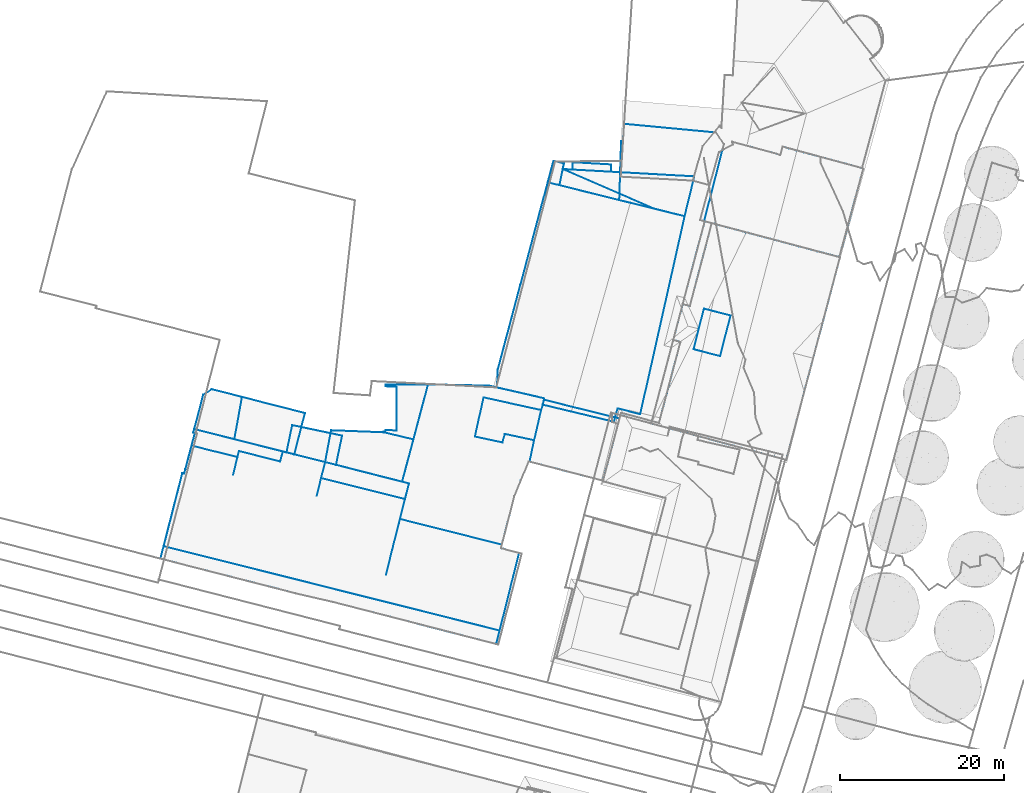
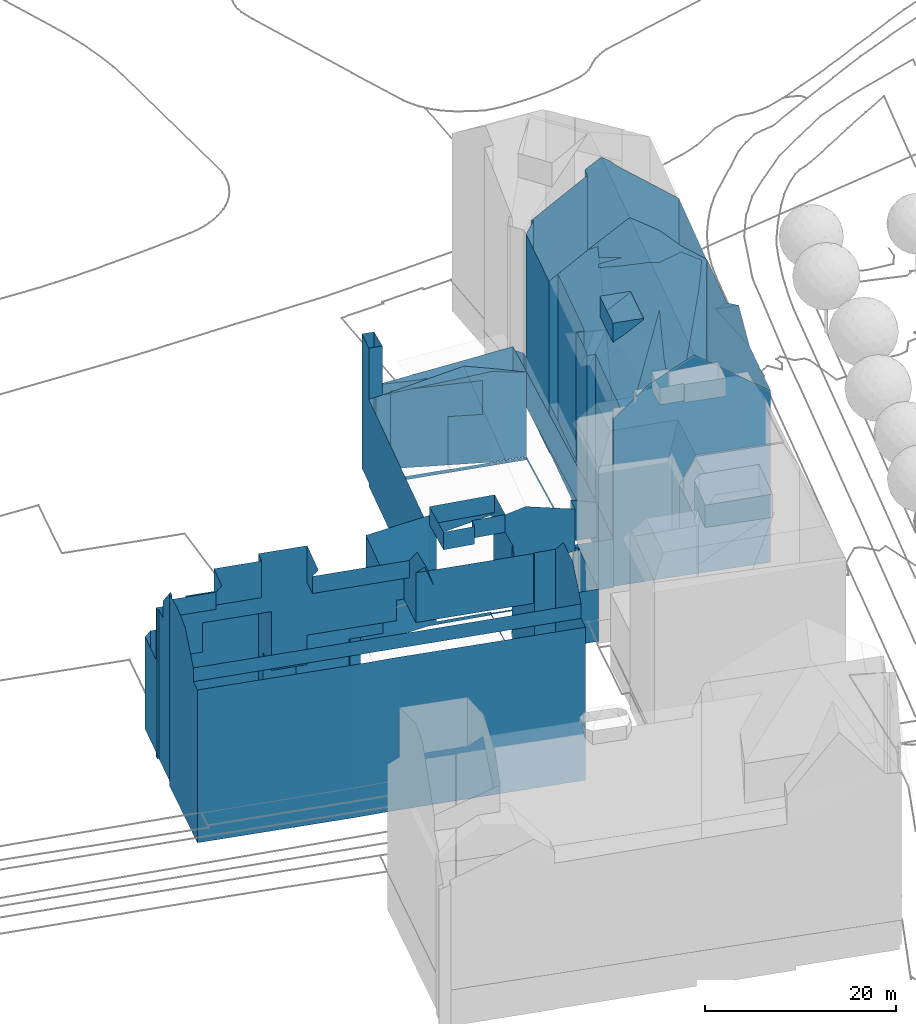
# Not in any storey, part 57 of 477: 4 walls.
"""IFC4 building model written with IfcOpenShell, lengths in metres."""

from ifc_helpers import new_model, si_unit, frame, origin_with_axes, place, context, subcontext, project, spatial, polygons, element, save


model = new_model("IFC4")

# Units and contexts
model_context = context("Model", 3, precision=1e-05, world=origin_with_axes())
body_context = subcontext(model_context, "Body", "Model", "MODEL_VIEW")
ifc_project = project(units=[si_unit("AREAUNIT", "SQUARE_METRE"), si_unit("LENGTHUNIT", "METRE")], contexts=[model_context])

# Sites, building
site_1_placement = place(None, origin_with_axes())
site_1 = spatial("IfcSite", under=ifc_project, at=site_1_placement, Name="Topoexport Site")
site_2_placement = place(site_1_placement, origin_with_axes())
site_2 = spatial("IfcSite", under=site_1, at=site_2_placement, Name="TPX_BUILDINGS")
building_1_placement = place(site_2_placement, frame((-8.9362679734, 426.3592160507, 536.4029), z_axis=(0.0, 0.0, 1.0), x_axis=(1.0, 0.0, 0.0)))
building_1 = spatial("IfcBuilding", under=site_2, at=building_1_placement, Name="Building 232", CompositionType="ELEMENT")

# Walls
wall_1_placement = place(None, frame((-8.9362679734, 426.3592160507, 536.4029), z_axis=(0.0, 0.0, 1.0), x_axis=(1.0, 0.0, 0.0)))
element("IfcWall", 1, at=wall_1_placement, inside=building_1, Name="Wall 0", context=body_context, shape_type="Tessellation", body=[
    polygons([(11.1169999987, -4.8271999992, 0.0), (0.0, 0.0, 10.828), (11.1169999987, -4.8271999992, 11.5769), (9.1480000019, -0.5097999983, 1.4529), (9.1480000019, -0.5097999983, 9.1871), (6.8610000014, -0.3827999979, 9.2101), (16.0089999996, -0.8905999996, 0.0), (16.0089999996, -0.8905999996, 10.664), (7.0980000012, -0.3954999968, 0.0), (1.1640000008, -0.0644999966, 9.8501), (5.8740000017, -0.3271999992, 9.8501), (7.0980000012, -0.3954999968, 10.755), (0.0, 0.0, 0.0), (5.8740000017, -0.3271999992, 0.058), (1.1640000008, -0.0644999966, 0.058), (6.8610000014, -0.3827999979, 1.4759), (1.2129999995, 0.8262000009, 0.058), (5.9189999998, 0.5547000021, 9.8501), (1.2129999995, 0.8262000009, 9.8501), (5.9189999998, 0.5547000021, 0.058), (14.8480000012, -5.75, 0.0), (14.8480000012, -5.75, 10.762)], [[[3, 2, 1]], [[6, 5, 4]], [[4, 8, 7]], [[4, 7, 9]], [[2, 11, 10]], [[11, 2, 12]], [[2, 10, 13]], [[12, 6, 11]], [[13, 15, 14]], [[13, 14, 9]], [[16, 14, 6]], [[6, 14, 11]], [[14, 16, 9]], [[5, 6, 12]], [[12, 8, 5]], [[9, 16, 4]], [[19, 18, 17]], [[10, 19, 15]], [[18, 11, 20]], [[8, 21, 7]], [[22, 1, 21]], [[2, 13, 1]], [[6, 4, 16]], [[5, 8, 4]], [[10, 15, 13]], [[18, 20, 17]], [[19, 17, 15]], [[11, 14, 20]], [[22, 21, 8]], [[3, 1, 22]]]),
])
wall_2_placement = place(None, frame((-8.9362679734, 426.3592160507, 536.4029), z_axis=(0.0, 0.0, 1.0), x_axis=(1.0, 0.0, 0.0)))
element("IfcWall", 2, at=wall_2_placement, inside=building_1, Name="Wall 1", context=body_context, shape_type="Tessellation", body=[
    polygons([(-7.9070000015, -24.3896999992, 5.0385), (-7.9070000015, -24.3896999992, 10.602), (-7.9719999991, -26.120099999, -0.446), (-7.9719999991, -26.120099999, 10.68), (-7.9070000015, -24.3896999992, -0.4459), (-8.0920000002, -26.5800999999, -0.446), (-8.0920000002, -26.5800999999, 10.681), (6.6689999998, -29.1386999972, -0.446), (6.4860000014, -29.8271999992, -0.033), (6.6689999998, -29.1386999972, -0.033), (6.375, -30.2431999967, -0.446), (6.4860000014, -29.8271999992, 6.1824), (6.6689999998, -29.1386999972, 11.4719), (6.6689999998, -29.1386999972, 6.1824), (6.375, -30.2431999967, 6.0464), (6.2320000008, -30.7802999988, 11.4719), (6.2320000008, -30.7802999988, 6.0464), (14.8480000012, -5.75, -0.4459), (9.4329999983, -29.8525999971, -0.033), (14.8480000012, -5.75, -0.033), (9.4329999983, -29.8525999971, -0.446), (7.3370000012, 3.3808000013, -0.033), (7.4710000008, 5.5029000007, 6.1824), (7.3370000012, 3.3808000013, 6.1824), (7.1140000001, 3.3945000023, -0.033), (7.1140000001, 3.3945000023, 6.1824), (10.8460000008, -30.6903999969, -0.033), (10.756000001, -30.9794999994, 6.1824), (10.8460000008, -30.6904999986, 6.1824), (17.2829999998, -6.3652999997, -0.033), (17.2829999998, -6.3652999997, 6.1824), (17.2170000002, -6.3476999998, -0.033), (17.2170000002, -6.3476999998, 6.1824), (18.7019999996, 4.4394000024, -0.033), (19.6229999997, 3.0371000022, 6.1824), (18.7019999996, 4.4394000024, 6.1824), (14.8480000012, -5.75, 6.1824), (9.4329999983, -29.8525999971, 10.602), (14.8480000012, -5.75, 10.762), (9.4329999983, -29.8525999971, 6.1824), (10.756000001, -30.9794999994, -0.033), (0.0, 0.0, 0.0), (6.9109999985, -3.0019999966, 6.1824), (0.0, 0.0, 10.828), (11.1169999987, -4.8271999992, 11.5769), (6.9100000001, -3.0019999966, 0.0), (11.1169999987, -4.8271999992, 6.1824), (-7.3500000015, -33.298899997, 13.2667), (-10.6900000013, -32.5820999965, 15.5335), (-7.3500000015, -33.298899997, 15.5335), (-7.0460000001, -32.248999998, 13.2667), (-7.0460000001, -32.248999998, 15.5335), (-3.4829999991, -33.0224999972, 13.2667), (-3.4829999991, -33.0224999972, 15.5325), (-2.6319999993, -29.3495999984, 13.2667), (-2.6319999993, -29.3495999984, 15.5325), (-2.6319999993, -29.3495999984, 6.0464), (-9.6409999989, -27.807599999, 13.2667), (-9.6409999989, -27.807599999, 15.5335), (-10.6900000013, -32.5820999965, 13.2667), (6.9120000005, -30.3769999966, -0.6259), (4.9090000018, -37.9482999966, 6.0463), (6.9120000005, -30.3769999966, 6.0464), (-2.2839999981, -28.0937999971, -0.6259), (-2.2839999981, -28.0937999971, -0.446), (-1.1319999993, 1.001000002, -0.039), (0.1389999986, 0.6758000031, 17.1484), (-1.1319999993, 1.0009000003, 17.1484), (0.1389999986, 0.6758000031, -0.039), (-0.3999999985, -1.9775999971, 17.1484), (-0.3999999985, -1.9775999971, -0.039), (-0.3999999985, -1.9775999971, 10.873), (-0.3999999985, -1.9775999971, 0.0), (-1.6019999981, -1.6816999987, 10.646), (-1.8319999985, -1.623999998, 10.602), (-1.8319999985, -1.6240999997, 17.1484), (-28.1959999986, -31.8056999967, -0.9959), (-21.8209999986, -32.0537, 5.4375), (-28.1959999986, -31.8056999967, 10.657), (-21.8209999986, -32.0537, 10.657), (-21.8209999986, -32.0537, -0.9959), (-21.8209999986, -32.0537, -0.8159), (-28.9299999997, -35.6806999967, 6.8843), (-28.2639999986, -32.1650999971, 6.8844), (-28.9299999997, -35.6806999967, 10.6569), (-28.2639999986, -32.1650999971, -0.9959), (-21.5639999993, -26.4482999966, -0.8159), (-21.568, -26.2665999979, 5.4375), (-21.5639999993, -26.4482999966, 5.4375), (-20.2390000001, -26.5126999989, -0.8159), (-20.2390000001, -26.5126999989, 5.4375), (-20.2479999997, -31.8329999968, -0.8159), (-20.2479999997, -31.8329999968, 5.4375), (-21.5839999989, -31.7675999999, -0.8159), (-21.5839999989, -31.7675999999, 5.4375), (-21.6000000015, -31.9745999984, -0.8159), (-21.6000000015, -31.9745999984, 5.4375), (-21.8220000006, -31.9648999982, -0.8159), (-21.8220000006, -31.9648999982, 5.4375), (-21.568, -26.2665999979, -0.8159), (-16.4010000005, -26.2206999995, 5.4375), (-18.1860000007, -32.9257999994, -0.8389), (-18.1860000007, -32.9257999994, -0.8159), (-18.1860000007, -32.9257999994, 10.657), (-8.9769999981, -26.3720999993, 13.2667), (-16.4010000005, -26.2206999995, 13.2667), (-8.9769999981, -26.3720999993, -0.8389), (-16.4010000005, -26.2206999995, -0.8159), (-16.4010000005, -26.2206999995, -0.8389), (-19.5560000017, -38.0751999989, 10.6569), (-19.5560000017, -38.0751999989, 13.2666), (-18.1860000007, -32.9257999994, 5.4375), (-18.1860000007, -32.9257999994, -0.9959), (-19.5560000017, -38.0751999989, -0.839), (-18.7329999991, -38.2841999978, -1.7229), (-27.6099999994, -36.0175999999, -1.167), (-28.9299999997, -35.6806999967, -1.7229), (-28.9299999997, -35.6806999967, -1.167), (-19.5560000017, -38.0751999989, -0.996), (-27.6099999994, -36.0175999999, -0.996), (-18.7329999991, -38.2841999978, -0.839), (-28.9299999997, -35.6806999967, 17.3113), (-18.7329999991, -38.2841999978, 17.3112), (-18.7329999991, -38.2841999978, 13.2666), (-27.9670000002, -52.7157999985, -1.7229), (-32.4349999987, -51.6806999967, 17.7962), (-27.9670000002, -52.7157999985, 17.7962), (-8.0989999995, -57.8310999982, -1.723), (-8.0989999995, -57.8310999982, 17.7962), (-45.9420999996, -36.5214999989, 4.3435), (-45.9400000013, -36.5146999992, 22.5798), (-45.9461000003, -36.5378999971, -1.7229), (-45.9400000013, -36.5146999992, -1.7229), (-46.3170000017, -37.0116999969, -1.7229), (-46.0850000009, -37.0702999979, -1.7229), (-46.3170000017, -37.0116999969, 10.4799), (-34.0909999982, -34.3827999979, 17.3114), (-39.9800000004, -32.8993999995, 14.4016), (-32.6909999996, -34.7343999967, 14.4016), (-34.0909999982, -34.3827999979, 22.0729), (-28.9299999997, -35.6806999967, 22.0728), (-32.6909999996, -34.7343999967, 6.8844), (-33.6359999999, -34.4970999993, -1.1669), (-32.9360000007, -31.1796999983, -1.1669), (-33.6359999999, -34.4970999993, -1.0859), (-29.4180000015, -37.628899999, 17.3113), (-19.2120000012, -40.1904999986, 19.508), (-29.4180000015, -37.628899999, 19.508), (-19.8209999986, -42.6132999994, -1.7229), (-7.4149999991, -45.7294999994, -0.839), (-19.8209999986, -42.6132999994, -0.839), (-19.8209999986, -42.6132999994, 13.2666), (-7.4149999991, -45.7294999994, 19.628), (-19.8209999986, -42.6132999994, 19.628), (-31.8289999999, -31.4130999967, 6.8844), (-31.8289999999, -31.4130999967, -1.0859), (-32.9360000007, -31.1796999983, -1.0859), (-26.8599999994, -32.4628999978, -1.1669), (-26.8599999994, -32.4628999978, -0.9959), (-3.4829999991, -33.0224999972, 6.0464), (-4.0320000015, -35.6318999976, 13.2666), (-3.4829999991, -33.0224999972, -0.8389), (-4.0320000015, -35.6318999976, -0.839), (-3.4829999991, -33.0224999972, -0.6259), (-2.6319999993, -29.3495999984, -0.8389), (-2.6319999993, -29.3495999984, -0.6259), (-2.4219999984, -28.6933999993, 13.2667), (-2.4219999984, -28.6933999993, 11.9039), (-2.4219999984, -28.6933999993, 6.0464), (-2.4219999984, -28.6933999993, -0.8389), (-2.4219999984, -28.6933999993, -0.6259), (-2.2430000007, -27.9169999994, 11.9039), (-2.2430000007, -27.9169999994, 13.2667), (-2.2430000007, -27.9169999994, -0.8389), (-2.2430000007, -27.9169999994, -0.446), (1.0269999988, -29.5243999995, 6.0464), (1.0269999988, -29.5243999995, 12.8528), (7.4710000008, 5.5029000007, -0.033), (19.6229999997, 3.0371000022, -0.033), (19.4349999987, 2.3027000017, 6.1824), (19.4349999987, 2.3027000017, -0.033), (6.9140000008, -2.8945999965, -0.033), (6.8850000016, -3.7802999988, -0.033), (6.8850000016, -3.7802999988, 0.0), (-6.6229999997, -19.5800999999, 10.602), (-6.6229999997, -19.5800999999, -0.4459), (-5.1600000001, -14.0937999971, -0.4459), (-5.1600000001, -14.0937999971, 10.602), (-1.8319999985, -1.623999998, -0.039), (-1.8319999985, -1.623999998, -0.4459), (8.2069999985, -4.1074999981, 11.3869), (8.2069999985, -4.1074999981, 12.8528), (11.1169999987, -4.8271999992, 11.9769), (-0.3999999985, -1.9775999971, -0.4459), (8.2069999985, -4.1074999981, -0.4459), (-7.4149999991, -45.7294999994, 13.2666), (-5.8900000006, -39.8037, -0.839), (-7.5289999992, -46.1728999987, 20.03), (-7.5289999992, -46.1728999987, -1.723), (-7.4149999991, -45.7294999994, -1.723), (-4.1490000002, -35.6015999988, -0.8389), (-5.1180000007, -37.9423999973, -0.839), (-4.1490000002, -35.6015999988, 13.2667), (-5.1180000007, -37.9423999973, 13.2666), (-5.8900000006, -39.8037, 13.2666), (-32.4349999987, -51.6806999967, -1.7229), (-48.9800000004, -47.4375, 17.7962), (-29.4180000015, -37.628899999, 21.9508), (-29.9629999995, -39.7978999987, 21.8138), (-45.1979999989, -33.6757999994, 19.5082), (-45.2219999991, -33.7685999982, 19.6072), (-45.1979999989, -33.6757999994, 17.3114), (-45.2219999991, -33.7685999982, -1.7228), (-45.1979999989, -33.6757999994, -1.7228), (-45.9470000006, -36.5439999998, 22.6118), (-46.0850000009, -37.0702999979, 22.6838), (-7.2829999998, -46.2353999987, -1.723), (-7.2829999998, -46.2353999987, 20.032), (-5.313000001, -46.7431999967, -1.723), (-5.313000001, -46.7431999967, 20.082), (-7.6860000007, -56.1904999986, 17.7962), (-22.3079999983, -52.5195999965, 19.568), (-7.6860000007, -56.1904999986, 19.628), (-48.5909999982, -45.9189999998, 17.7962), (-48.5909999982, -45.9189999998, 19.553), (-4.0320000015, -35.6318999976, -0.6261), (-4.0320000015, -35.6318999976, 6.0463), (-6.0280000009, -49.5898999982, 22.9057), (-6.9050000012, -53.0790999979, -1.723), (-6.9050000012, -53.0790999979, 22.9057), (-6.0280000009, -49.5898999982, -1.723), (-7.6860000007, -56.1904999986, -1.723), (-47.7969999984, -42.8085999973, 22.6118), (-48.9800000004, -47.4375, -1.7229), (-48.5909999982, -45.9189999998, -1.7229), (-47.7969999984, -42.8085999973, -1.7229), (-46.3170000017, -37.0116999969, 22.6838), (-47.0350000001, -39.8222999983, 23.0657), (-47.0350000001, -39.8222999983, -1.7229), (-19.2120000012, -40.1904999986, 17.3112), (-19.9459999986, -43.1103999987, 20.078), (-19.8209999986, -42.6132999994, 22.0828), (-20.6510000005, -45.9169999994, 22.9967), (-19.9459999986, -43.1103999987, 22.6117), (-20.6510000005, -45.9169999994, 22.6187), (-20.7760000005, -46.4169999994, 23.0657), (-20.7760000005, -46.4169999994, 22.6147), (-21.5269999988, -49.4052999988, 22.6157), (-43.7699999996, -27.4706999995, -1.1469), (-42.7340000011, -26.807599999, 10.667), (-43.7699999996, -27.4706999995, 10.667), (-39.0560000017, -27.75, -1.1469), (-39.9800000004, -32.8993999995, -1.0859), (-39.0560000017, -27.75, -1.086), (-39.9800000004, -32.8993999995, 10.667), (-39.0560000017, -27.75, 14.4017), (-44.7950000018, -32.1347999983, -1.7228), (-44.9759999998, -32.0868999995, 17.3114), (-44.7950000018, -32.1347999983, 17.3114), (-39.9800000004, -32.8993999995, -1.1469), (-44.8669999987, -31.6708999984, -1.1469), (-44.8669999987, -31.6708999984, -1.7228), (-34.0909999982, -34.3827999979, -1.7228), (-44.8669999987, -31.6708999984, 10.667), (-44.8669999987, -31.6708999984, 17.3114), (-42.7340000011, -26.807599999, -1.1469), (-39.0560000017, -27.75, 10.667), (-31.3889999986, -29.7157999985, 14.4016), (-31.3889999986, -29.7157999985, -1.0859), (-44.9759999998, -32.0868999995, -1.7228), (-39.6000000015, -35.0702999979, 19.5082), (-39.4180000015, -34.3486999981, 17.3114), (-34.3979999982, -35.6093999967, 21.9979), (-39.4180000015, -34.3486999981, 21.9979), (-34.3979999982, -35.6093999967, 17.3114), (-39.6000000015, -35.0702999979, 21.9519), (-40.1449999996, -37.2392999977, 21.8138), (-39.6000000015, -35.0702999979, 17.3114), (4.9090000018, -37.9482999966, -0.6261), (-45.9439999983, -36.5302999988, 22.5968), (-45.9453999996, -36.5391999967, -1.7229)], [[[3, 2, 1]], [[4, 2, 3]], [[1, 5, 3]], [[7, 4, 6]], [[4, 3, 6]], [[10, 9, 8]], [[8, 9, 11]], [[14, 13, 12]], [[12, 16, 15]], [[16, 12, 13]], [[17, 15, 16]], [[11, 9, 15]], [[15, 9, 12]], [[20, 19, 18]], [[21, 19, 10]], [[10, 8, 21]], [[24, 23, 22]], [[26, 24, 25]], [[29, 28, 27]], [[31, 29, 30]], [[33, 31, 32]], [[36, 35, 34]], [[39, 38, 37]], [[38, 14, 40]], [[28, 12, 41]], [[44, 43, 42]], [[43, 44, 45]], [[42, 43, 46]], [[47, 43, 45]], [[50, 49, 48]], [[52, 50, 51]], [[54, 51, 53]], [[56, 54, 55]], [[55, 53, 57]], [[59, 56, 58]], [[49, 59, 60]], [[63, 62, 61]], [[65, 11, 64]], [[64, 11, 61]], [[63, 61, 11]], [[63, 11, 15]], [[68, 67, 66]], [[67, 44, 69]], [[44, 67, 70]], [[69, 42, 71]], [[70, 72, 44]], [[73, 71, 42]], [[72, 70, 74]], [[74, 76, 75]], [[76, 74, 70]], [[79, 78, 77]], [[78, 79, 80]], [[82, 81, 77]], [[85, 84, 83]], [[84, 85, 79]], [[84, 77, 86]], [[77, 84, 79]], [[89, 88, 87]], [[91, 89, 90]], [[93, 91, 92]], [[95, 93, 94]], [[97, 95, 96]], [[99, 97, 98]], [[78, 99, 82]], [[88, 101, 100]], [[82, 102, 81]], [[103, 102, 82]], [[80, 104, 78]], [[101, 106, 105]], [[108, 101, 107]], [[108, 107, 109]], [[107, 101, 105]], [[111, 104, 110]], [[104, 111, 106]], [[104, 101, 112]], [[102, 114, 113]], [[103, 108, 102]], [[117, 116, 115]], [[116, 117, 118]], [[120, 119, 116]], [[114, 121, 119]], [[119, 115, 116]], [[115, 119, 121]], [[122, 111, 85]], [[111, 122, 123]], [[85, 111, 110]], [[124, 111, 123]], [[127, 126, 125]], [[129, 127, 128]], [[132, 131, 130]], [[132, 130, 133]], [[136, 135, 134]], [[139, 138, 137]], [[137, 140, 139]], [[141, 122, 139]], [[85, 83, 142]], [[85, 139, 122]], [[85, 142, 139]], [[141, 139, 140]], [[145, 144, 143]], [[148, 147, 146]], [[151, 150, 149]], [[154, 153, 152]], [[156, 155, 86]], [[144, 157, 156]], [[156, 158, 144]], [[84, 86, 155]], [[159, 158, 86]], [[86, 158, 156]], [[158, 159, 116]], [[53, 161, 160]], [[164, 163, 162]], [[166, 164, 165]], [[168, 167, 55]], [[168, 57, 169]], [[171, 166, 170]], [[173, 167, 172]], [[175, 64, 174]], [[64, 175, 65]], [[174, 64, 170]], [[171, 170, 64]], [[6, 105, 7]], [[6, 107, 105]], [[7, 173, 172]], [[173, 7, 105]], [[6, 175, 174]], [[6, 174, 107]], [[17, 16, 176]], [[176, 16, 177]], [[176, 168, 169]], [[168, 176, 177]], [[23, 36, 178]], [[35, 180, 179]], [[32, 181, 33]], [[182, 46, 43]], [[184, 46, 183]], [[183, 46, 182]], [[182, 43, 25]], [[2, 185, 1]], [[186, 5, 1]], [[186, 1, 187]], [[1, 185, 188]], [[75, 68, 66]], [[68, 75, 76]], [[188, 75, 189]], [[187, 189, 190]], [[189, 187, 188]], [[189, 75, 66]], [[188, 187, 1]], [[72, 192, 191]], [[191, 192, 193]], [[45, 193, 39]], [[193, 45, 191]], [[37, 47, 39]], [[39, 47, 45]], [[194, 71, 184]], [[71, 194, 190]], [[189, 71, 190]], [[73, 184, 71]], [[184, 183, 194]], [[20, 195, 183]], [[183, 195, 194]], [[20, 18, 195]], [[150, 197, 196]], [[153, 198, 196]], [[196, 199, 150]], [[199, 200, 150]], [[203, 202, 201]], [[205, 197, 204]], [[204, 202, 203]], [[149, 115, 151]], [[126, 207, 206]], [[122, 141, 148]], [[148, 141, 208]], [[209, 148, 208]], [[148, 146, 122]], [[212, 211, 210]], [[131, 212, 130]], [[212, 131, 211]], [[130, 213, 133]], [[213, 130, 214]], [[130, 212, 214]], [[132, 216, 215]], [[216, 132, 135]], [[199, 198, 217]], [[217, 198, 218]], [[218, 220, 219]], [[218, 219, 217]], [[223, 222, 221]], [[221, 222, 224]], [[225, 224, 222]], [[227, 226, 62]], [[226, 201, 163]], [[203, 201, 227]], [[230, 229, 228]], [[220, 231, 219]], [[231, 220, 228]], [[129, 128, 221]], [[221, 229, 230]], [[232, 229, 221]], [[221, 230, 223]], [[224, 225, 233]], [[235, 234, 224]], [[236, 235, 224]], [[236, 224, 136]], [[224, 233, 136]], [[238, 237, 136]], [[239, 136, 134]], [[239, 236, 136]], [[136, 233, 238]], [[240, 147, 154]], [[123, 240, 124]], [[152, 124, 154]], [[242, 241, 154]], [[124, 240, 154]], [[154, 147, 242]], [[244, 243, 241]], [[243, 245, 241]], [[247, 245, 246]], [[246, 248, 247]], [[245, 243, 246]], [[244, 241, 242]], [[251, 250, 249]], [[254, 253, 252]], [[138, 256, 255]], [[259, 258, 257]], [[212, 259, 214]], [[262, 261, 260]], [[260, 145, 263]], [[145, 260, 253]], [[260, 263, 262]], [[265, 138, 264]], [[138, 265, 137]], [[250, 254, 266]], [[254, 250, 267]], [[252, 266, 254]], [[256, 268, 267]], [[267, 269, 254]], [[269, 267, 268]], [[258, 265, 264]], [[270, 264, 261]], [[264, 270, 258]], [[251, 249, 261]], [[261, 262, 270]], [[251, 261, 264]], [[210, 271, 212]], [[274, 273, 272]], [[263, 145, 143]], [[143, 118, 117]], [[143, 117, 263]], [[273, 137, 275]], [[271, 277, 276]], [[278, 271, 272]], [[274, 272, 271]], [[274, 271, 276]], [[268, 155, 269]], [[155, 268, 139]], [[142, 155, 139]], [[19, 21, 18]], [[23, 178, 22]], [[24, 22, 25]], [[28, 41, 27]], [[29, 27, 30]], [[31, 30, 32]], [[35, 179, 34]], [[38, 40, 37]], [[13, 14, 38]], [[12, 9, 41]], [[49, 60, 48]], [[50, 48, 51]], [[52, 51, 54]], [[54, 53, 55]], [[53, 160, 57]], [[56, 55, 58]], [[59, 58, 60]], [[62, 279, 61]], [[67, 69, 66]], [[44, 42, 69]], [[78, 82, 77]], [[88, 100, 87]], [[89, 87, 90]], [[91, 90, 92]], [[93, 92, 94]], [[95, 94, 96]], [[97, 96, 98]], [[99, 98, 82]], [[101, 108, 100]], [[102, 113, 81]], [[104, 112, 78]], [[106, 101, 104]], [[114, 119, 113]], [[108, 109, 102]], [[126, 206, 125]], [[127, 125, 128]], [[280, 131, 132]], [[215, 280, 281]], [[136, 237, 135]], [[135, 237, 216]], [[157, 144, 145]], [[147, 240, 146]], [[150, 200, 149]], [[153, 196, 152]], [[159, 120, 116]], [[161, 227, 160]], [[226, 163, 164]], [[164, 162, 165]], [[55, 57, 168]], [[166, 165, 170]], [[167, 168, 172]], [[36, 34, 178]], [[180, 181, 179]], [[181, 180, 33]], [[43, 26, 25]], [[197, 205, 196]], [[198, 199, 196]], [[197, 202, 204]], [[115, 121, 151]], [[207, 234, 206]], [[226, 279, 62]], [[227, 161, 203]], [[201, 226, 227]], [[229, 231, 228]], [[128, 232, 221]], [[234, 207, 224]], [[250, 266, 249]], [[253, 260, 252]], [[256, 267, 255]], [[258, 270, 257]], [[259, 257, 214]], [[138, 255, 264]], [[271, 278, 212]], [[273, 275, 272]], [[140, 137, 273]], [[155, 156, 269]]]),
])

# Building
building_2_placement = place(site_2_placement, frame((8.2807320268, 420.0125160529, 536.5319), z_axis=(0.0, 0.0, 1.0), x_axis=(1.0, 0.0, 0.0)))
building_2 = spatial("IfcBuilding", under=site_2, at=building_2_placement, Name="Building 236", CompositionType="ELEMENT")

# Wall
wall_3_placement = place(None, frame((8.2807320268, 420.0125160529, 536.5319), z_axis=(0.0, 0.0, 1.0), x_axis=(1.0, 0.0, 0.0)))
element("IfcWall", 3, at=wall_3_placement, inside=building_2, Name="Wall 0", context=body_context, shape_type="Tessellation", body=[
    polygons([(10.3229999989, 8.8662, 0.0), (11.2740000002, 8.6083999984, 0.0), (10.3229999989, 8.8662, 27.7254), (5.2019999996, -1.3838, 0.0), (5.1970000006, -1.3828000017, 25.8725), (8.4349999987, -2.2441000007, 28.3043), (10.1490000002, 8.9131000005, 0.0), (10.1490000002, 8.9131000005, 27.6144), (5.1039999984, -1.3574000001, 25.8135), (5.1039999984, -1.3574000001, 0.0), (1.6030000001, -0.4268000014, 23.0408), (9.5549999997, 9.0742000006, 0.0), (9.5549999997, 9.0742000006, 27.1434), (9.2749999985, 8.0742000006, 0.0), (9.2749999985, 8.0742000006, 27.1244), (5.8399999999, 9.0058999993, 0.0), (5.8399999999, 9.0058999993, 24.4017), (1.6030000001, -0.4268000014, 0.0), (0.0, 0.0, 21.7589), (3.375, 9.6737999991, 0.0), (3.375, 9.6737999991, 22.4289), (3.5350000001, 9.3544999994, 0.0), (3.5350000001, 9.3544999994, 22.6099), (2.2179999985, 8.6493999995, 0.0), (2.2179999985, 8.6493999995, 21.7589), (0.0, 0.0, 0.0), (17.4299999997, -0.7811999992, 0.0), (17.4519999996, -0.7001999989, 21.5519), (19.3759999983, 6.4140999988, 0.0), (16.4569999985, -4.3779000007, 0.0), (12.8619999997, 8.177699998, 0.0), (12.8619999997, 8.177699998, 27.0744), (19.3759999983, 6.4140999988, 21.6739), (13.8229999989, -3.6768000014, 23.6697), (16.4569999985, -4.3779000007, 21.4889), (13.8229999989, -3.6768000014, 0.0), (12.1909999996, 8.3603999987, 0.0), (12.1909999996, 8.3603999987, 27.7854), (11.5489999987, -3.072300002, 0.0), (11.5489999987, -3.072300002, 26.0785), (11.2740000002, 8.6083999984, 28.4413)], [[[3, 2, 1]], [[6, 5, 4]], [[8, 1, 7]], [[5, 9, 4]], [[9, 11, 10]], [[13, 7, 12]], [[15, 12, 14]], [[17, 14, 16]], [[11, 19, 18]], [[21, 16, 20]], [[23, 21, 22]], [[25, 22, 24]], [[19, 25, 26]], [[29, 28, 27]], [[27, 28, 30]], [[32, 29, 31]], [[29, 32, 33]], [[30, 35, 34]], [[36, 30, 34]], [[38, 32, 37]], [[34, 39, 36]], [[40, 4, 39]], [[41, 38, 2]], [[41, 2, 3]], [[3, 1, 8]], [[9, 10, 4]], [[11, 18, 10]], [[8, 7, 13]], [[13, 12, 15]], [[15, 14, 17]], [[19, 26, 18]], [[17, 16, 21]], [[21, 20, 22]], [[23, 22, 25]], [[25, 24, 26]], [[33, 28, 29]], [[35, 30, 28]], [[32, 31, 37]], [[40, 39, 34]], [[6, 4, 40]], [[38, 37, 2]]]),
])

# Building
building_3_placement = place(site_2_placement, frame((1.8157320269, 395.3797160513, 536.5319), z_axis=(0.0, 0.0, 1.0), x_axis=(1.0, 0.0, 0.0)))
building_3 = spatial("IfcBuilding", under=site_2, at=building_3_placement, Name="Building 237", CompositionType="ELEMENT")

# Wall
wall_4_placement = place(None, frame((1.8157320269, 395.3797160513, 536.5319), z_axis=(0.0, 0.0, 1.0), x_axis=(1.0, 0.0, 0.0)))
element("IfcWall", 4, at=wall_4_placement, inside=building_3, Name="Wall 0", context=body_context, shape_type="Tessellation", body=[
    polygons([(6.3189999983, 8.7422000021, 24.5986), (5.1770000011, 9.0351000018, 26.3225), (8.4100000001, 8.2060000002, 26.1655), (8.4100000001, 8.2060000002, 26.3225), (5.1770000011, 9.0351000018, 23.8317), (5.370000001, 8.9863000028, 24.0247), (9.675999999, 13.1504000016, 26.2085), (9.675999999, 13.1504000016, 26.3225), (6.4450000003, 13.9765000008, 23.7697), (6.9400000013, 13.8496000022, 24.1607), (6.4450000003, 13.9766000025, 26.3225), (6.9589999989, 13.8456999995, 24.1727), (5.8079999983, 11.5449000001, 23.7567), (5.8079999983, 11.5449000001, 26.3225), (0.0940000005, 0.2891000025, 0.0), (0.0, 0.0, 21.4049), (0.0, 0.0, 16.0484), (0.0, 0.0, 0.0), (0.0, 0.0, 10.692), (0.0940000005, 0.2891000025, 16.0704), (0.0940000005, 0.2891000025, 21.4259), (4.5289999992, 14.3398000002, 0.0), (3.8579999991, 14.5166000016, 22.2769), (3.8579999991, 14.5166000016, 0.0), (4.5289999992, 14.3398000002, 22.2799), (4.7280000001, 14.2871000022, 0.0), (4.7280000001, 14.2871000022, 22.4368), (6.3150000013, 20.3037, 0.0), (6.3150000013, 20.3037, 22.4779), (7.3909999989, 24.3857000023, 0.0), (7.3909999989, 24.3857000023, 22.4999), (3.5749999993, 9.9257999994, 0.0), (2.7060000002, 10.1611000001, 22.3599), (3.5, 9.9463, 22.3519), (3.5749999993, 9.9257999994, 22.4088), (3.5, 9.9463, 0.0), (2.7060000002, 10.1611000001, 0.0), (2.8020000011, 10.5254000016, 0.0), (3.7100000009, 13.9590000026, 0.0), (2.8020000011, 10.5254000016, 22.6088), (3.7100000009, 13.9590000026, 22.6338), (0.9629999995, 0.0537, 0.0), (1.9299999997, 3.7099000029, 22.2089), (0.9629999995, 0.0537, 22.2738), (1.9299999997, 3.7099000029, 0.0), (2.0009999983, 3.9766000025, 22.2149), (0.2199999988, 0.254900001, 21.5269), (18.6409999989, 3.8203000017, 21.8379), (20.9659999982, 12.5576000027, 21.2589), (19.745000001, 7.9717000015, 0.0), (23.006000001, 20.2324000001, 0.0), (23.006000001, 20.2324000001, 21.4189), (20.9659999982, 12.5576000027, 0.0), (19.745000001, 7.9717000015, 24.1437), (16.574000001, -3.9463, 21.9059), (16.574000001, -3.9463, 0.0), (16.4450000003, -4.4296999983, 21.8909), (18.6409999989, 3.8203000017, 0.0), (16.4450000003, -4.4296999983, 0.0), (8.563000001, -2.3066999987, 0.0), (8.4459999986, -2.2753999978, 0.0), (8.3209999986, -2.2421999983, 0.0), (3.6620000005, -0.9862999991, 0.0), (0.0830000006, -0.0224999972, 0.0), (8.3209999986, -2.2421999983, 27.8993), (8.4459999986, -2.2753999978, 27.9923), (8.563000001, -2.3066999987, 27.9083), (3.6620000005, -0.9862999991, 25.0706), (0.0830000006, -0.0224999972, 21.4719), (18.0139999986, 21.5604999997, 26.0785), (14.8999999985, 22.3887000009, 28.3043), (11.6620000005, 23.25, 25.8725), (20.2879999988, 20.9560000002, 23.6697), (8.068, 24.2050999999, 23.0408), (11.5689999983, 23.2754000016, 25.8135), (14.8999999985, 22.3887000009, 0.0), (18.0139999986, 21.5604999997, 0.0), (20.2879999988, 20.9560000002, 0.0), (11.6620000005, 23.25, 0.0), (8.068, 24.2050999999, 0.0), (11.5689999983, 23.2754000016, 0.0)], [[[3, 2, 1]], [[2, 3, 4]], [[6, 2, 5]], [[2, 6, 1]], [[8, 4, 7]], [[11, 10, 9]], [[10, 11, 12]], [[11, 7, 12]], [[7, 11, 8]], [[14, 9, 13]], [[2, 14, 5]], [[17, 16, 15]], [[19, 15, 18]], [[21, 20, 16]], [[24, 23, 22]], [[22, 23, 25]], [[25, 27, 26]], [[25, 26, 22]], [[26, 27, 28]], [[28, 27, 29]], [[29, 31, 30]], [[29, 30, 28]], [[34, 33, 32]], [[35, 34, 32]], [[33, 36, 32]], [[36, 33, 37]], [[33, 39, 38]], [[33, 24, 39]], [[38, 37, 33]], [[33, 40, 23]], [[41, 23, 40]], [[33, 23, 24]], [[44, 43, 42]], [[42, 43, 45]], [[46, 35, 45]], [[32, 45, 35]], [[46, 45, 43]], [[15, 44, 42]], [[20, 47, 44]], [[47, 20, 21]], [[20, 44, 15]], [[50, 49, 48]], [[52, 49, 51]], [[49, 53, 51]], [[53, 49, 50]], [[49, 54, 48]], [[56, 48, 55]], [[56, 55, 57]], [[56, 58, 48]], [[59, 56, 57]], [[48, 58, 50]], [[60, 59, 57]], [[62, 61, 19]], [[60, 19, 61]], [[63, 62, 19]], [[19, 64, 63]], [[19, 18, 64]], [[19, 60, 57]], [[67, 66, 65]], [[65, 68, 67]], [[68, 17, 57]], [[57, 17, 19]], [[69, 16, 17]], [[68, 69, 17]], [[57, 67, 68]], [[72, 71, 70]], [[73, 52, 31]], [[72, 70, 73]], [[75, 73, 74]], [[72, 73, 75]], [[74, 73, 31]], [[52, 76, 31]], [[76, 52, 77]], [[51, 78, 52]], [[79, 31, 76]], [[30, 31, 80]], [[80, 31, 81]], [[79, 81, 31]], [[78, 77, 52]], [[4, 3, 7]], [[11, 9, 14]], [[14, 13, 5]], [[17, 15, 19]], [[20, 15, 16]]]),
])

save(model, "model.ifc")
